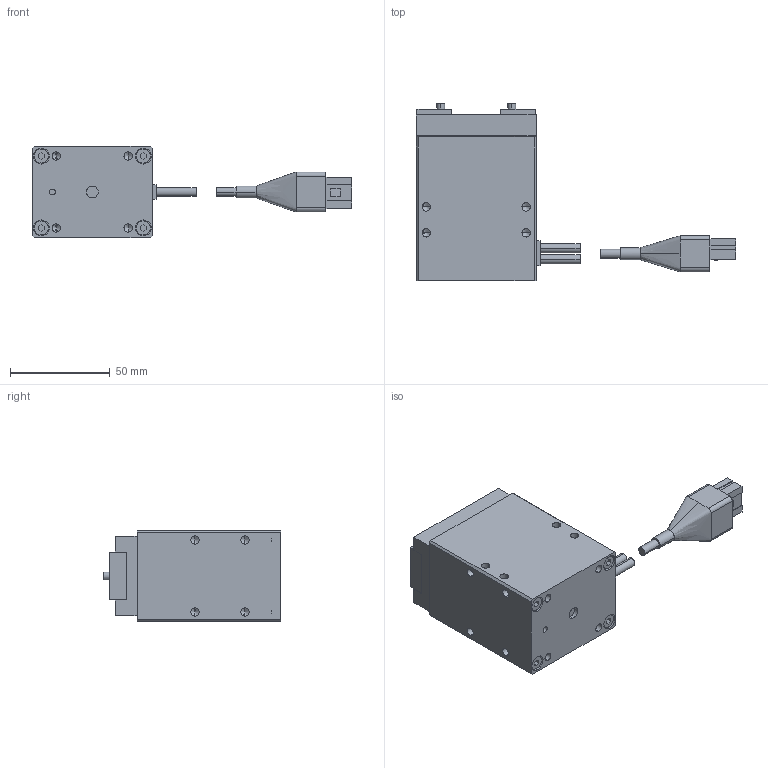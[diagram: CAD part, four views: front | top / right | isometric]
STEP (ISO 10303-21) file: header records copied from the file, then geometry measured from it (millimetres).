
FILE_DESCRIPTION (( 'STEP AP214' ), '1' );
FILE_NAME ('ESG1-SS-4225.STEP', '2009-02-12T08:31:42', ( '風音庵' ), ( '' ), 'SwSTEP 2.0', 'SolidWorks 2007', '' );
FILE_SCHEMA (( 'AUTOMOTIVE_DESIGN' ));
Length unit declared in the file: millimetre
Products named in the file (6): ESG1-SS-4225 BODY_蹬怮椔; CNNECTOR丂BB丂ASSY_棉太倌; ESG1-SS-4225 FINGER_蹬怮椔; CONNECTOR COVER　BB_ﾃﾞﾌｫﾙﾄ; CONNECTOR　DK-2100D-12R_ﾃﾞﾌｫﾙﾄ; ESG1-SS-4225
Assembly tree (6 placements, depth 3):
  ESG1-SS-4225
    ESG1-SS-4225 FINGER_蹬怮椔  x2
    CNNECTOR丂BB丂ASSY_棉太倌
      CONNECTOR　DK-2100D-12R_ﾃﾞﾌｫﾙﾄ
      CONNECTOR COVER　BB_ﾃﾞﾌｫﾙﾄ
    ESG1-SS-4225 BODY_蹬怮椔
Bounding box: 159.89 x 89 x 46 mm (x, y, z)
Volume: 228452.2 mm3; surface area: 38425 mm2
Topology: 5 solids, 5 shells, 334 faces, 814 edges, 506 vertices
Faces by surface type: plane 200, cylinder 88, cone 44, bspline 2
Entity records: 13016 total; most frequent: CARTESIAN_POINT 1987, DIRECTION 1552, ORIENTED_EDGE 1480, EDGE_CURVE 740, VECTOR 570, LINE 570, AXIS2_PLACEMENT_3D 491, VERTEX_POINT 484
